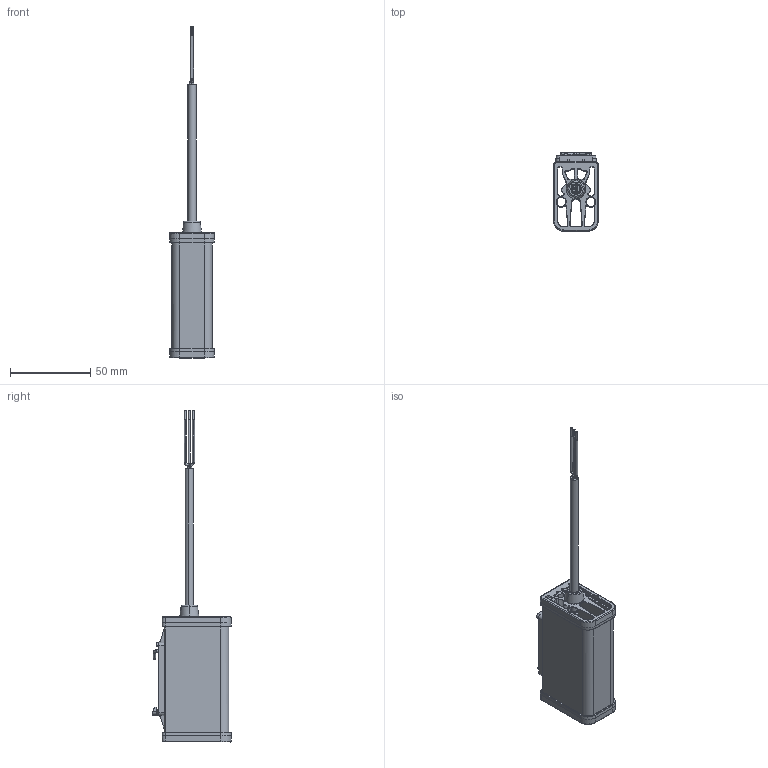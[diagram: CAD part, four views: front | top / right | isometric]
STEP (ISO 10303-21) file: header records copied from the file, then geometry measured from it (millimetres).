
FILE_DESCRIPTION(/* description */ (''),/* implementation_level */ '2;1');
FILE_NAME(/* name */ 'HWM030',/* time_stamp */ '2018-04-17T14:12:12+02:00',/* author */ (''),/* organization */ (''),/* preprocessor_version */ 'ST-DEVELOPER v14',/* originating_system */ '',/* authorisation */ '');
FILE_SCHEMA (('CONFIG_CONTROL_DESIGN'));
Length unit declared in the file: millimetre
Products named in the file (1): Document
Bounding box: 28 x 48.75 x 206.4 mm (x, y, z)
Volume: 11814.3 mm3; surface area: 26824.6 mm2
Topology: 3 solids, 148 shells, 765 faces, 2421 edges, 1797 vertices
Faces by surface type: bspline 588, plane 177
Entity records: 46846 total; most frequent: CARTESIAN_POINT 34313, ORIENTED_EDGE 4021, EDGE_CURVE 2407, VERTEX_POINT 1797, B_SPLINE_CURVE_WITH_KNOTS 996, EDGE_LOOP 810, ADVANCED_FACE 765, FACE_OUTER_BOUND 765
